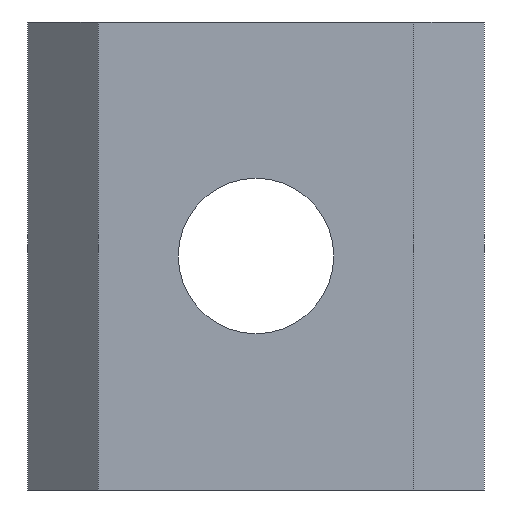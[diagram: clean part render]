
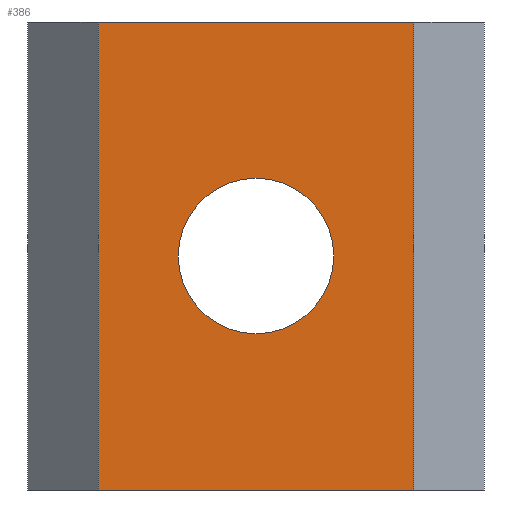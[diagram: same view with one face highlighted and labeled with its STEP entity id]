
A CAD part, front view. The second image highlights one B-rep face of the part: STEP entity #386.
In plain terms, the highlighted planar face has unit normal (0, -1, 0).
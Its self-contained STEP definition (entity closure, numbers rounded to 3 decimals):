
#145=CARTESIAN_POINT('',(13.073,0.0,-10.0));
#146=VERTEX_POINT('',#145);
#147=CARTESIAN_POINT('',(9.75,0.0,-10.0));
#148=DIRECTION('',(0.0,1.0,0.0));
#149=DIRECTION('',(1.0,0.0,0.0));
#150=AXIS2_PLACEMENT_3D('',#147,#148,#149);
#151=CIRCLE('',#150,3.324);
#152=EDGE_CURVE('',#146,#146,#151,.T.);
#318=CARTESIAN_POINT('',(16.5,0.0,-20.0));
#319=VERTEX_POINT('',#318);
#336=CARTESIAN_POINT('',(16.5,0.0,0.0));
#337=VERTEX_POINT('',#336);
#344=CARTESIAN_POINT('',(16.5,0.0,0.0));
#345=DIRECTION('',(0.0,0.0,-1.0));
#346=VECTOR('',#345,20.0);
#347=LINE('',#344,#346);
#348=EDGE_CURVE('',#337,#319,#347,.T.);
#353=CARTESIAN_POINT('',(0.0,0.0,0.0));
#354=DIRECTION('',(0.0,-1.0,0.0));
#355=DIRECTION('',(0.0,0.0,-1.0));
#356=AXIS2_PLACEMENT_3D('',#353,#354,#355);
#357=PLANE('',#356);
#358=ORIENTED_EDGE('',*,*,#348,.F.);
#359=CARTESIAN_POINT('',(3.,0.0,0.0));
#360=VERTEX_POINT('',#359);
#361=CARTESIAN_POINT('',(3.,0.0,0.0));
#362=DIRECTION('',(1.0,0.0,0.0));
#363=VECTOR('',#362,13.5);
#364=LINE('',#361,#363);
#365=EDGE_CURVE('',#360,#337,#364,.T.);
#366=ORIENTED_EDGE('',*,*,#365,.F.);
#367=CARTESIAN_POINT('',(3.,0.0,-20.0));
#368=VERTEX_POINT('',#367);
#369=CARTESIAN_POINT('',(3.,0.0,-20.0));
#370=DIRECTION('',(0.0,0.0,1.0));
#371=VECTOR('',#370,20.0);
#372=LINE('',#369,#371);
#373=EDGE_CURVE('',#368,#360,#372,.T.);
#374=ORIENTED_EDGE('',*,*,#373,.F.);
#375=CARTESIAN_POINT('',(3.,0.0,-20.0));
#376=DIRECTION('',(1.0,0.0,0.0));
#377=VECTOR('',#376,13.5);
#378=LINE('',#375,#377);
#379=EDGE_CURVE('',#368,#319,#378,.T.);
#380=ORIENTED_EDGE('',*,*,#379,.T.);
#381=EDGE_LOOP('',(#358,#366,#374,#380));
#382=FACE_OUTER_BOUND('',#381,.T.);
#383=ORIENTED_EDGE('',*,*,#152,.T.);
#384=EDGE_LOOP('',(#383));
#385=FACE_BOUND('',#384,.T.);
#386=ADVANCED_FACE('',(#382,#385),#357,.T.);
